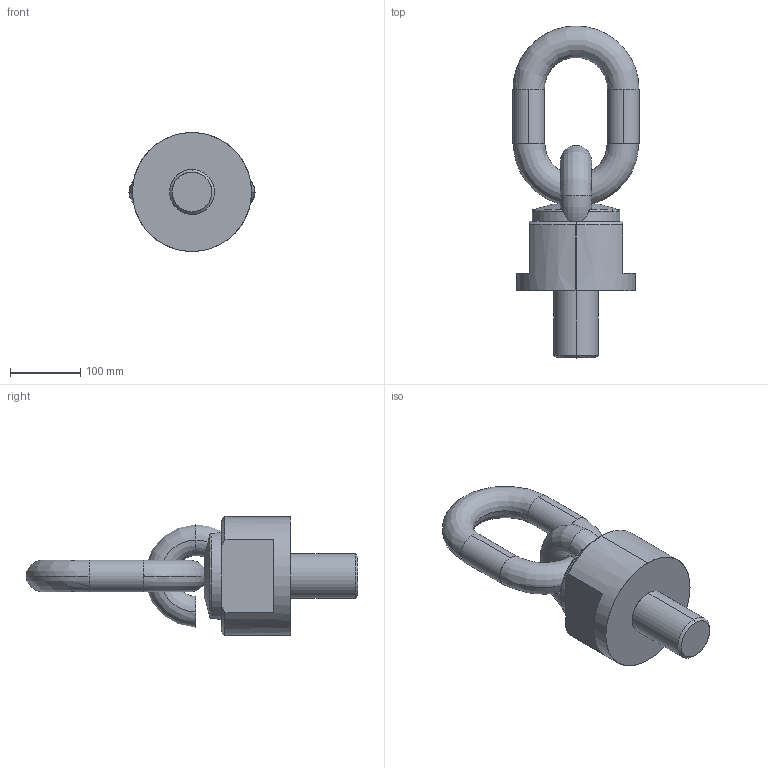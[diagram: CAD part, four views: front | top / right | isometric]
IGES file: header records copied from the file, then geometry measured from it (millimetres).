
Start section: START RECORD GO HERE.
Global section: file name: C800X2806496.igs; native system: DASSAULT SYSTEMES CATIA V5 R20 - www.3ds.com; preprocessor: CATIA Version 5 Release 20 ; author: Utente; organization: NB04-ASUS; date: 20200412.221041; units: millimetre
Bounding box: 180 x 474 x 170 mm (x, y, z)
Surface area: 222296.2 mm2 (no closed solid volume)
Topology: 0 solids, 0 shells, 42 faces, 233 edges, 233 vertices
Faces by surface type: revolution 30, extrusion 12
